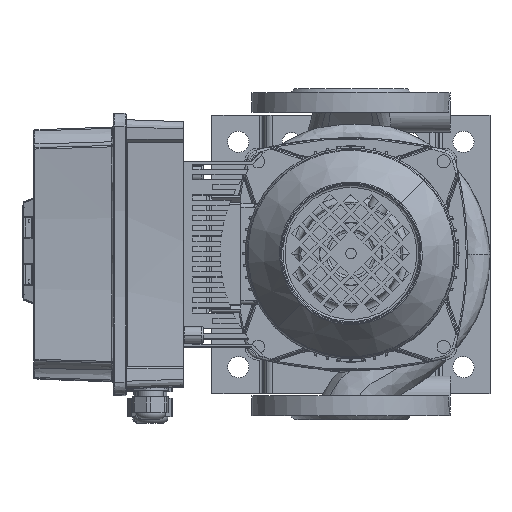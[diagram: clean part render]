
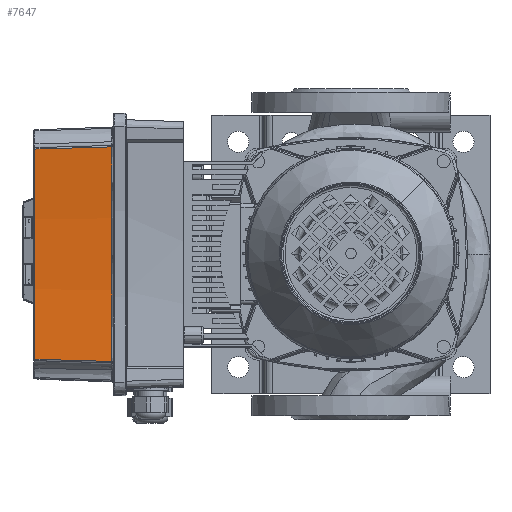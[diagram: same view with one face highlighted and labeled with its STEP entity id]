
A CAD part, top view. The second image highlights one B-rep face of the part: STEP entity #7647.
In plain terms, the highlighted conical face has half-angle 2 degrees and reference radius 845 mm.
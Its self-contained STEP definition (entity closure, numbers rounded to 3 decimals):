
#7647=ADVANCED_FACE('',(#15806),#15807,.F.);
#15806=FACE_OUTER_BOUND('',#36711,.T.);
#15807=CONICAL_SURFACE('',#36712,845.0,0.035);
#36711=EDGE_LOOP('',(#57531,#57532,#57533,#57534));
#36712=AXIS2_PLACEMENT_3D('',#57535,#57536,#57537);
#57531=ORIENTED_EDGE('',*,*,#88616,.F.);
#57532=ORIENTED_EDGE('',*,*,#88671,.F.);
#57533=ORIENTED_EDGE('',*,*,#88632,.F.);
#57534=ORIENTED_EDGE('',*,*,#88660,.F.);
#57535=CARTESIAN_POINT('',(-110.0,1132.065,60.0));
#57536=DIRECTION('',(0.,-0.0,-1.0));
#57537=DIRECTION('',(1.0,0.0,0.));
#88616=EDGE_CURVE('',#113760,#113766,#113767,.T.);
#88632=EDGE_CURVE('',#113787,#113779,#113789,.T.);
#88660=EDGE_CURVE('',#113766,#113787,#113819,.T.);
#88671=EDGE_CURVE('',#113779,#113760,#113831,.T.);
#113760=VERTEX_POINT('',#140041);
#113766=VERTEX_POINT('',#140083);
#113767=B_SPLINE_CURVE_WITH_KNOTS('',3,(#140084,#140085,#140086,#140087,#140088,#140089,#140090,#140091,#140092,#140093,#140094,#140095,#140096,#140097,#140098,#140099,#140100,#140101,#140102,#140103,#140104,#140105,#140106,#140107,#140108),.UNSPECIFIED.,.F.,.F.,(4,3,3,3,3,3,3,3,4),(-60.14,-51.629,-41.43,-35.057,-31.073,-27.089,-20.715,-10.517,-2.006),.UNSPECIFIED.);
#113779=VERTEX_POINT('',#140197);
#113787=VERTEX_POINT('',#140258);
#113789=B_SPLINE_CURVE_WITH_KNOTS('',3,(#140273,#140274,#140275,#140276,#140277,#140278,#140279,#140280,#140281,#140282,#140283,#140284,#140285,#140286,#140287,#140288,#140289,#140290,#140291,#140292,#140293,#140294,#140295,#140296,#140297),.UNSPECIFIED.,.F.,.F.,(4,3,3,3,3,3,3,3,4),(2.006,10.517,20.716,27.09,31.073,35.057,41.431,51.63,60.14),.UNSPECIFIED.);
#113819=CIRCLE('',#140488,847.062);
#113831=CIRCLE('',#140516,845.034);
#140041=CARTESIAN_POINT('',(-190.987,290.921,59.035));
#140083=CARTESIAN_POINT('',(-189.365,288.73,0.965));
#140084=CARTESIAN_POINT('',(-190.987,290.921,59.035));
#140085=CARTESIAN_POINT('',(-190.902,290.814,56.201));
#140086=CARTESIAN_POINT('',(-190.819,290.706,53.368));
#140087=CARTESIAN_POINT('',(-190.736,290.599,50.534));
#140088=CARTESIAN_POINT('',(-190.637,290.47,47.138));
#140089=CARTESIAN_POINT('',(-190.539,290.342,43.743));
#140090=CARTESIAN_POINT('',(-190.442,290.214,40.347));
#140091=CARTESIAN_POINT('',(-190.381,290.133,38.225));
#140092=CARTESIAN_POINT('',(-190.321,290.053,36.103));
#140093=CARTESIAN_POINT('',(-190.261,289.973,33.98));
#140094=CARTESIAN_POINT('',(-190.224,289.923,32.654));
#140095=CARTESIAN_POINT('',(-190.187,289.873,31.327));
#140096=CARTESIAN_POINT('',(-190.15,289.823,30.001));
#140097=CARTESIAN_POINT('',(-190.113,289.773,28.675));
#140098=CARTESIAN_POINT('',(-190.076,289.723,27.348));
#140099=CARTESIAN_POINT('',(-190.04,289.673,26.022));
#140100=CARTESIAN_POINT('',(-189.981,289.593,23.899));
#140101=CARTESIAN_POINT('',(-189.923,289.513,21.777));
#140102=CARTESIAN_POINT('',(-189.865,289.433,19.655));
#140103=CARTESIAN_POINT('',(-189.772,289.305,16.259));
#140104=CARTESIAN_POINT('',(-189.681,289.177,12.863));
#140105=CARTESIAN_POINT('',(-189.59,289.049,9.467));
#140106=CARTESIAN_POINT('',(-189.515,288.943,6.633));
#140107=CARTESIAN_POINT('',(-189.44,288.836,3.799));
#140108=CARTESIAN_POINT('',(-189.365,288.73,0.965));
#140197=CARTESIAN_POINT('',(-29.013,290.921,59.035));
#140258=CARTESIAN_POINT('',(-30.635,288.73,0.965));
#140273=CARTESIAN_POINT('',(-30.635,288.73,0.965));
#140274=CARTESIAN_POINT('',(-30.56,288.836,3.799));
#140275=CARTESIAN_POINT('',(-30.485,288.943,6.633));
#140276=CARTESIAN_POINT('',(-30.41,289.049,9.467));
#140277=CARTESIAN_POINT('',(-30.319,289.177,12.863));
#140278=CARTESIAN_POINT('',(-30.228,289.305,16.259));
#140279=CARTESIAN_POINT('',(-30.135,289.433,19.654));
#140280=CARTESIAN_POINT('',(-30.077,289.513,21.777));
#140281=CARTESIAN_POINT('',(-30.019,289.593,23.899));
#140282=CARTESIAN_POINT('',(-29.96,289.673,26.022));
#140283=CARTESIAN_POINT('',(-29.924,289.723,27.348));
#140284=CARTESIAN_POINT('',(-29.887,289.773,28.674));
#140285=CARTESIAN_POINT('',(-29.85,289.823,30.001));
#140286=CARTESIAN_POINT('',(-29.813,289.873,31.327));
#140287=CARTESIAN_POINT('',(-29.776,289.923,32.654));
#140288=CARTESIAN_POINT('',(-29.739,289.973,33.98));
#140289=CARTESIAN_POINT('',(-29.679,290.053,36.103));
#140290=CARTESIAN_POINT('',(-29.619,290.133,38.225));
#140291=CARTESIAN_POINT('',(-29.558,290.214,40.347));
#140292=CARTESIAN_POINT('',(-29.461,290.342,43.743));
#140293=CARTESIAN_POINT('',(-29.363,290.47,47.139));
#140294=CARTESIAN_POINT('',(-29.264,290.599,50.534));
#140295=CARTESIAN_POINT('',(-29.181,290.706,53.368));
#140296=CARTESIAN_POINT('',(-29.098,290.814,56.201));
#140297=CARTESIAN_POINT('',(-29.013,290.921,59.035));
#140488=AXIS2_PLACEMENT_3D('',#168227,#168228,#168229);
#140516=AXIS2_PLACEMENT_3D('',#168239,#168240,#168241);
#168227=CARTESIAN_POINT('',(-110.0,1132.065,0.965));
#168228=DIRECTION('',(0.,0.,1.0));
#168229=DIRECTION('',(0.0,-1.0,0.));
#168239=CARTESIAN_POINT('',(-110.0,1132.065,59.035));
#168240=DIRECTION('',(-0.0,-0.0,-1.0));
#168241=DIRECTION('',(0.0,-1.0,0.0));
